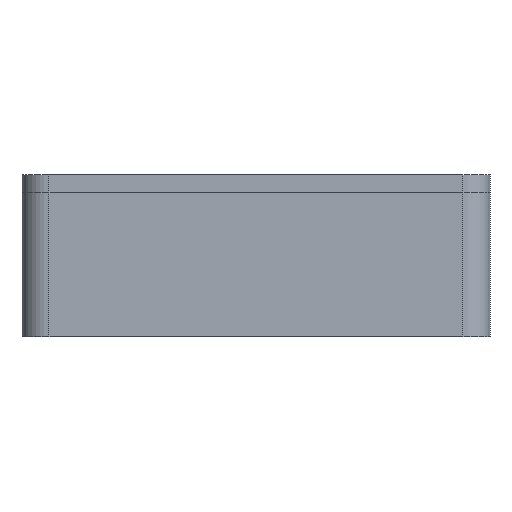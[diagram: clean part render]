
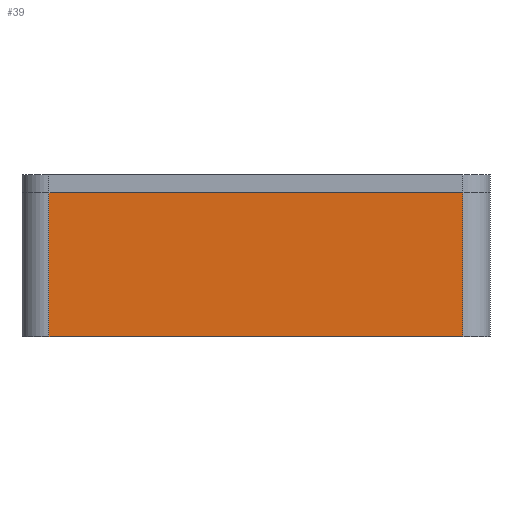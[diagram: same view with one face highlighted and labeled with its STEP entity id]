
A CAD part, left-side view. The second image highlights one B-rep face of the part: STEP entity #39.
In plain terms, the highlighted planar face has unit normal (-1, 0, 0).
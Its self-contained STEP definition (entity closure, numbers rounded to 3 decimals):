
#39 = ADVANCED_FACE('',(#40),#54,.F.);
#40 = FACE_BOUND('',#41,.F.);
#41 = EDGE_LOOP('',(#42,#77,#105,#133));
#42 = ORIENTED_EDGE('',*,*,#43,.F.);
#43 = EDGE_CURVE('',#44,#46,#48,.T.);
#44 = VERTEX_POINT('',#45);
#45 = CARTESIAN_POINT('',(-39.,-23.,16.));
#46 = VERTEX_POINT('',#47);
#47 = CARTESIAN_POINT('',(-39.,23.,16.));
#48 = SURFACE_CURVE('',#49,(#53,#65),.PCURVE_S1.);
#49 = LINE('',#50,#51);
#50 = CARTESIAN_POINT('',(-39.,-26.,16.));
#51 = VECTOR('',#52,1.);
#52 = DIRECTION('',(0.,1.,0.));
#53 = PCURVE('',#54,#59);
#54 = PLANE('',#55);
#55 = AXIS2_PLACEMENT_3D('',#56,#57,#58);
#56 = CARTESIAN_POINT('',(-39.,-26.,0.));
#57 = DIRECTION('',(1.,0.,0.));
#58 = DIRECTION('',(0.,0.,1.));
#59 = DEFINITIONAL_REPRESENTATION('',(#60),#64);
#60 = LINE('',#61,#62);
#61 = CARTESIAN_POINT('',(16.,0.));
#62 = VECTOR('',#63,1.);
#63 = DIRECTION('',(0.,-1.));
#64 = ( GEOMETRIC_REPRESENTATION_CONTEXT(2) 
PARAMETRIC_REPRESENTATION_CONTEXT() REPRESENTATION_CONTEXT('2D SPACE',''
  ) );
#65 = PCURVE('',#66,#71);
#66 = PLANE('',#67);
#67 = AXIS2_PLACEMENT_3D('',#68,#69,#70);
#68 = CARTESIAN_POINT('',(-39.,-26.,16.));
#69 = DIRECTION('',(0.,0.,1.));
#70 = DIRECTION('',(1.,0.,0.));
#71 = DEFINITIONAL_REPRESENTATION('',(#72),#76);
#72 = LINE('',#73,#74);
#73 = CARTESIAN_POINT('',(0.,0.));
#74 = VECTOR('',#75,1.);
#75 = DIRECTION('',(0.,1.));
#76 = ( GEOMETRIC_REPRESENTATION_CONTEXT(2) 
PARAMETRIC_REPRESENTATION_CONTEXT() REPRESENTATION_CONTEXT('2D SPACE',''
  ) );
#77 = ORIENTED_EDGE('',*,*,#78,.F.);
#78 = EDGE_CURVE('',#79,#44,#81,.T.);
#79 = VERTEX_POINT('',#80);
#80 = CARTESIAN_POINT('',(-39.,-23.,0.));
#81 = SURFACE_CURVE('',#82,(#86,#93),.PCURVE_S1.);
#82 = LINE('',#83,#84);
#83 = CARTESIAN_POINT('',(-39.,-23.,0.));
#84 = VECTOR('',#85,1.);
#85 = DIRECTION('',(0.,0.,1.));
#86 = PCURVE('',#54,#87);
#87 = DEFINITIONAL_REPRESENTATION('',(#88),#92);
#88 = LINE('',#89,#90);
#89 = CARTESIAN_POINT('',(0.,-3.));
#90 = VECTOR('',#91,1.);
#91 = DIRECTION('',(1.,0.));
#92 = ( GEOMETRIC_REPRESENTATION_CONTEXT(2) 
PARAMETRIC_REPRESENTATION_CONTEXT() REPRESENTATION_CONTEXT('2D SPACE',''
  ) );
#93 = PCURVE('',#94,#99);
#94 = CYLINDRICAL_SURFACE('',#95,3.);
#95 = AXIS2_PLACEMENT_3D('',#96,#97,#98);
#96 = CARTESIAN_POINT('',(-36.,-23.,0.));
#97 = DIRECTION('',(0.,0.,1.));
#98 = DIRECTION('',(-1.,-0.,0.));
#99 = DEFINITIONAL_REPRESENTATION('',(#100),#104);
#100 = LINE('',#101,#102);
#101 = CARTESIAN_POINT('',(0.,0.));
#102 = VECTOR('',#103,1.);
#103 = DIRECTION('',(0.,1.));
#104 = ( GEOMETRIC_REPRESENTATION_CONTEXT(2) 
PARAMETRIC_REPRESENTATION_CONTEXT() REPRESENTATION_CONTEXT('2D SPACE',''
  ) );
#105 = ORIENTED_EDGE('',*,*,#106,.T.);
#106 = EDGE_CURVE('',#79,#107,#109,.T.);
#107 = VERTEX_POINT('',#108);
#108 = CARTESIAN_POINT('',(-39.,23.,0.));
#109 = SURFACE_CURVE('',#110,(#114,#121),.PCURVE_S1.);
#110 = LINE('',#111,#112);
#111 = CARTESIAN_POINT('',(-39.,-26.,0.));
#112 = VECTOR('',#113,1.);
#113 = DIRECTION('',(0.,1.,0.));
#114 = PCURVE('',#54,#115);
#115 = DEFINITIONAL_REPRESENTATION('',(#116),#120);
#116 = LINE('',#117,#118);
#117 = CARTESIAN_POINT('',(0.,0.));
#118 = VECTOR('',#119,1.);
#119 = DIRECTION('',(0.,-1.));
#120 = ( GEOMETRIC_REPRESENTATION_CONTEXT(2) 
PARAMETRIC_REPRESENTATION_CONTEXT() REPRESENTATION_CONTEXT('2D SPACE',''
  ) );
#121 = PCURVE('',#122,#127);
#122 = PLANE('',#123);
#123 = AXIS2_PLACEMENT_3D('',#124,#125,#126);
#124 = CARTESIAN_POINT('',(-39.,-26.,0.));
#125 = DIRECTION('',(0.,0.,1.));
#126 = DIRECTION('',(1.,0.,0.));
#127 = DEFINITIONAL_REPRESENTATION('',(#128),#132);
#128 = LINE('',#129,#130);
#129 = CARTESIAN_POINT('',(0.,0.));
#130 = VECTOR('',#131,1.);
#131 = DIRECTION('',(0.,1.));
#132 = ( GEOMETRIC_REPRESENTATION_CONTEXT(2) 
PARAMETRIC_REPRESENTATION_CONTEXT() REPRESENTATION_CONTEXT('2D SPACE',''
  ) );
#133 = ORIENTED_EDGE('',*,*,#134,.T.);
#134 = EDGE_CURVE('',#107,#46,#135,.T.);
#135 = SURFACE_CURVE('',#136,(#140,#147),.PCURVE_S1.);
#136 = LINE('',#137,#138);
#137 = CARTESIAN_POINT('',(-39.,23.,0.));
#138 = VECTOR('',#139,1.);
#139 = DIRECTION('',(0.,0.,1.));
#140 = PCURVE('',#54,#141);
#141 = DEFINITIONAL_REPRESENTATION('',(#142),#146);
#142 = LINE('',#143,#144);
#143 = CARTESIAN_POINT('',(0.,-49.));
#144 = VECTOR('',#145,1.);
#145 = DIRECTION('',(1.,0.));
#146 = ( GEOMETRIC_REPRESENTATION_CONTEXT(2) 
PARAMETRIC_REPRESENTATION_CONTEXT() REPRESENTATION_CONTEXT('2D SPACE',''
  ) );
#147 = PCURVE('',#148,#153);
#148 = CYLINDRICAL_SURFACE('',#149,3.);
#149 = AXIS2_PLACEMENT_3D('',#150,#151,#152);
#150 = CARTESIAN_POINT('',(-36.,23.,0.));
#151 = DIRECTION('',(0.,0.,1.));
#152 = DIRECTION('',(-1.,-0.,0.));
#153 = DEFINITIONAL_REPRESENTATION('',(#154),#158);
#154 = LINE('',#155,#156);
#155 = CARTESIAN_POINT('',(-0.,0.));
#156 = VECTOR('',#157,1.);
#157 = DIRECTION('',(-0.,1.));
#158 = ( GEOMETRIC_REPRESENTATION_CONTEXT(2) 
PARAMETRIC_REPRESENTATION_CONTEXT() REPRESENTATION_CONTEXT('2D SPACE',''
  ) );
